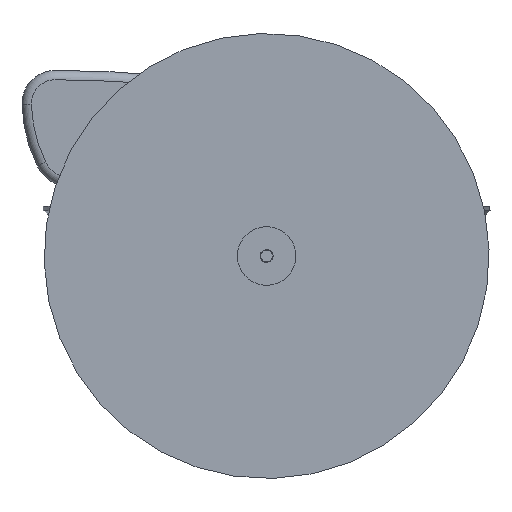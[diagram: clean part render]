
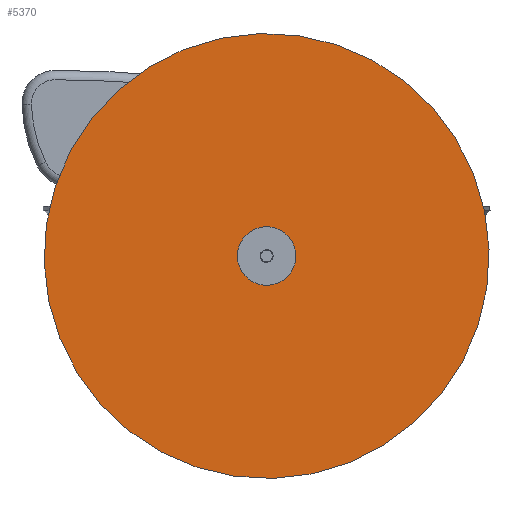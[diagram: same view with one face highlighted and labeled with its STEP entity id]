
A CAD part, front view. The second image highlights one B-rep face of the part: STEP entity #5370.
In plain terms, the highlighted planar face has unit normal (0, -1, 0).
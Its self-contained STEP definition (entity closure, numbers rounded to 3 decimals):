
#162 = CIRCLE ( 'NONE', #1932, 190. ) ;
#184 = CARTESIAN_POINT ( 'NONE',  ( 0., 0., 25. ) ) ;
#186 = FACE_BOUND ( 'NONE', #5299, .T. ) ;
#249 = CIRCLE ( 'NONE', #3592, 190. ) ;
#375 = VERTEX_POINT ( 'NONE', #5023 ) ;
#440 = EDGE_CURVE ( 'NONE', #375, #5024, #162, .T. ) ;
#466 = CARTESIAN_POINT ( 'NONE',  ( 0., 0., 0. ) ) ;
#765 = DIRECTION ( 'NONE',  ( 0., -1., 0. ) ) ;
#934 = DIRECTION ( 'NONE',  ( 0., 1., 0. ) ) ;
#1120 = EDGE_LOOP ( 'NONE', ( #5783, #4089 ) ) ;
#1133 = DIRECTION ( 'NONE',  ( 0., 0., 1. ) ) ;
#1178 = DIRECTION ( 'NONE',  ( 0., 0., -1. ) ) ;
#1449 = CIRCLE ( 'NONE', #4747, 25. ) ;
#1700 = CARTESIAN_POINT ( 'NONE',  ( 0., 0., 0. ) ) ;
#1712 = VERTEX_POINT ( 'NONE', #184 ) ;
#1860 = DIRECTION ( 'NONE',  ( 0., 0., 1. ) ) ;
#1932 = AXIS2_PLACEMENT_3D ( 'NONE', #466, #934, #1860 ) ;
#2298 = DIRECTION ( 'NONE',  ( 0., 0., -1. ) ) ;
#2340 = DIRECTION ( 'NONE',  ( 0., -1., 0. ) ) ;
#2553 = PLANE ( 'NONE',  #4514 ) ;
#2598 = CARTESIAN_POINT ( 'NONE',  ( 0., 0., 0. ) ) ;
#3180 = EDGE_CURVE ( 'NONE', #4824, #1712, #1449, .T. ) ;
#3515 = DIRECTION ( 'NONE',  ( 0., 1., 0. ) ) ;
#3592 = AXIS2_PLACEMENT_3D ( 'NONE', #1700, #4077, #4062 ) ;
#3675 = ORIENTED_EDGE ( 'NONE', *, *, #3180, .F. ) ;
#3866 = AXIS2_PLACEMENT_3D ( 'NONE', #5860, #765, #1178 ) ;
#4054 = FACE_OUTER_BOUND ( 'NONE', #1120, .T. ) ;
#4062 = DIRECTION ( 'NONE',  ( 0., 0., 1. ) ) ;
#4077 = DIRECTION ( 'NONE',  ( 0., 1., 0. ) ) ;
#4089 = ORIENTED_EDGE ( 'NONE', *, *, #440, .F. ) ;
#4514 = AXIS2_PLACEMENT_3D ( 'NONE', #2598, #3515, #1133 ) ;
#4605 = CARTESIAN_POINT ( 'NONE',  ( 0., 0., -190. ) ) ;
#4715 = CARTESIAN_POINT ( 'NONE',  ( 0., 0., -25. ) ) ;
#4747 = AXIS2_PLACEMENT_3D ( 'NONE', #5992, #2340, #2298 ) ;
#4823 = EDGE_CURVE ( 'NONE', #1712, #4824, #4911, .T. ) ;
#4824 = VERTEX_POINT ( 'NONE', #4715 ) ;
#4911 = CIRCLE ( 'NONE', #3866, 25. ) ;
#5023 = CARTESIAN_POINT ( 'NONE',  ( 0., 0., 190. ) ) ;
#5024 = VERTEX_POINT ( 'NONE', #4605 ) ;
#5299 = EDGE_LOOP ( 'NONE', ( #3675, #5577 ) ) ;
#5370 = ADVANCED_FACE ( 'NONE', ( #186, #4054 ), #2553, .F. ) ;
#5570 = EDGE_CURVE ( 'NONE', #5024, #375, #249, .T. ) ;
#5577 = ORIENTED_EDGE ( 'NONE', *, *, #4823, .F. ) ;
#5783 = ORIENTED_EDGE ( 'NONE', *, *, #5570, .F. ) ;
#5860 = CARTESIAN_POINT ( 'NONE',  ( 0., 0., 0. ) ) ;
#5992 = CARTESIAN_POINT ( 'NONE',  ( 0., 0., 0. ) ) ;
